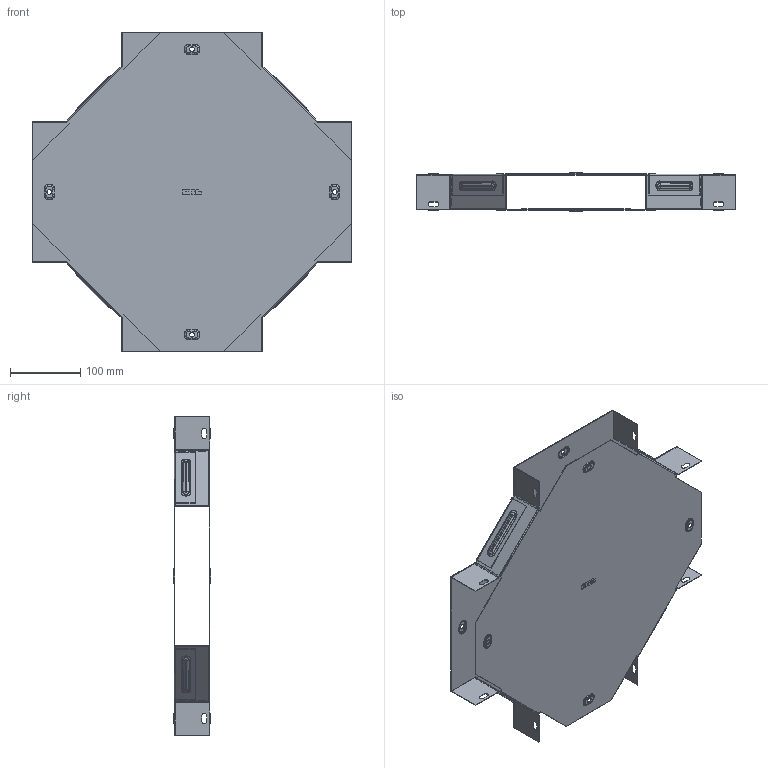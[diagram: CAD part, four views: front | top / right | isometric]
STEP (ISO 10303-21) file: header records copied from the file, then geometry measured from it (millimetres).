
FILE_DESCRIPTION (( 'STEP AP214' ), '1' );
FILE_NAME ('x5020008_捘.STEP', '2019-06-10T07:19:46', ( '砐錪賧瘔蠈錪 Windows' ), ( '' ), 'SwSTEP 2.0', 'SolidWorks 2018', '' );
FILE_SCHEMA (( 'AUTOMOTIVE_DESIGN' ));
Length unit declared in the file: millimetre
Products named in the file (1): x5020008_捘
Bounding box: 455.01 x 53.8 x 455.01 mm (x, y, z)
Volume: 278897.7 mm3; surface area: 701739.9 mm2
Topology: 2 solids, 2 shells, 812 faces, 2292 edges, 1480 vertices
Faces by surface type: plane 406, cylinder 260, torus 128, bspline 18
Entity records: 27251 total; most frequent: CARTESIAN_POINT 5543, ORIENTED_EDGE 4584, DIRECTION 4558, EDGE_CURVE 2292, VECTOR 1544, LINE 1544, AXIS2_PLACEMENT_3D 1507, VERTEX_POINT 1480
